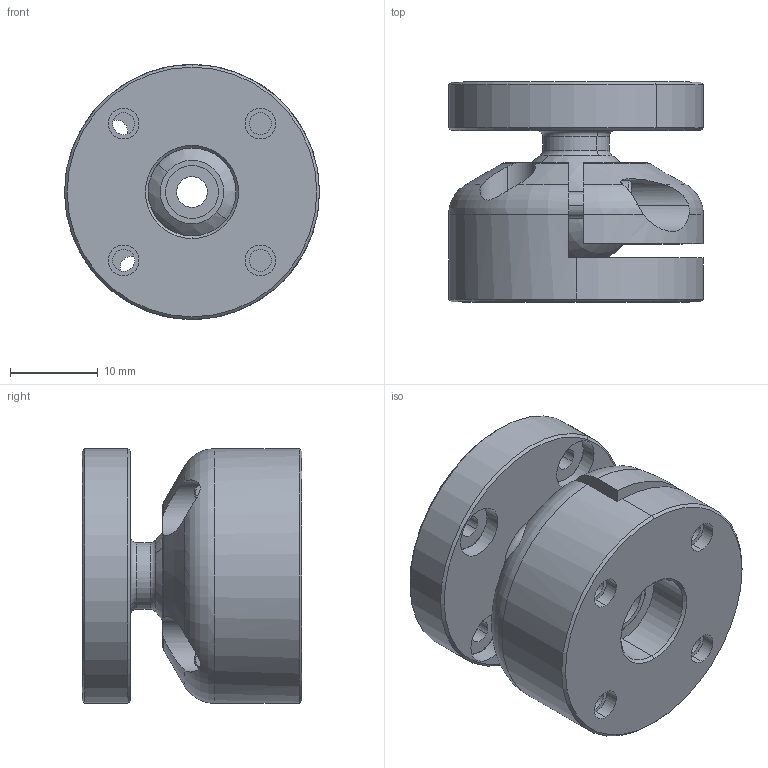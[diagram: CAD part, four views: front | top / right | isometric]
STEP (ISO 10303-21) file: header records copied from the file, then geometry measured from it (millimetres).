
FILE_DESCRIPTION (( 'STEP AP203' ), '1' );
FILE_NAME ('GK04-Gelenkkopf.STEP', '2013-09-29T12:19:35', ( 'MM01' ), ( '' ), 'SwSTEP 2.0', 'SolidWorks 2012', '' );
FILE_SCHEMA (( 'CONFIG_CONTROL_DESIGN' ));
Length unit declared in the file: millimetre
Products named in the file (3): GK04-Gelenkkopf; GK04-schwenkteil; GK04-fix
Assembly tree (2 placements, depth 2):
  GK04-Gelenkkopf
    GK04-fix
    GK04-schwenkteil
Bounding box: 29 x 25 x 29 mm (x, y, z)
Volume: 10465.7 mm3; surface area: 7770.4 mm2
Topology: 2 solids, 2 shells, 336 faces, 942 edges, 585 vertices
Faces by surface type: cone 118, plane 105, cylinder 85, torus 22, sphere 6
Entity records: 12139 total; most frequent: CARTESIAN_POINT 3126, ORIENTED_EDGE 1874, DIRECTION 1818, EDGE_CURVE 937, AXIS2_PLACEMENT_3D 784, VERTEX_POINT 582, CIRCLE 443, EDGE_LOOP 431
